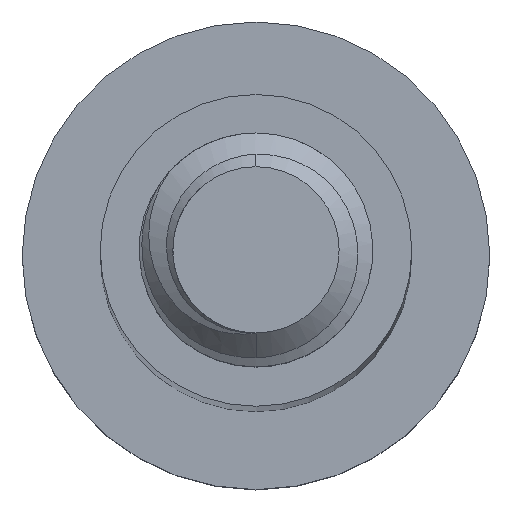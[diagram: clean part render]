
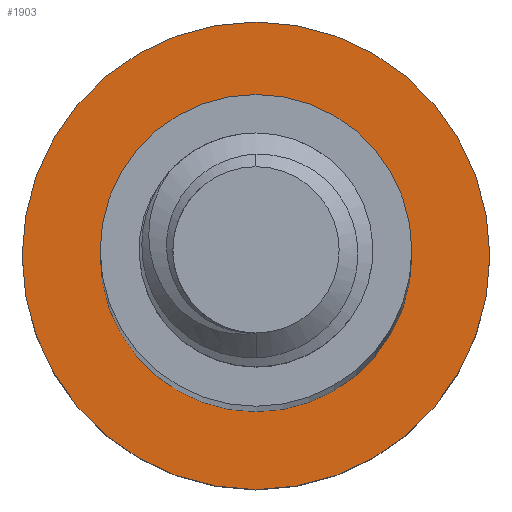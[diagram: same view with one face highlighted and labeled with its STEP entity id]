
A CAD part, top view. The second image highlights one B-rep face of the part: STEP entity #1903.
In plain terms, the highlighted planar face has unit normal (0, 0, 1).
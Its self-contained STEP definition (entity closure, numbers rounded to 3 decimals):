
#65 = FACE_BOUND ( 'NONE', #285, .T. ) ;
#78 = ORIENTED_EDGE ( 'NONE', *, *, #1864, .T. ) ;
#87 = VERTEX_POINT ( 'NONE', #1897 ) ;
#106 = DIRECTION ( 'NONE',  ( -1., 0., 0. ) ) ;
#153 = AXIS2_PLACEMENT_3D ( 'NONE', #634, #294, #1662 ) ;
#285 = EDGE_LOOP ( 'NONE', ( #78, #805 ) ) ;
#294 = DIRECTION ( 'NONE',  ( 0., 0., -1. ) ) ;
#337 = EDGE_CURVE ( 'NONE', #1007, #1483, #1997, .T. ) ;
#368 = EDGE_CURVE ( 'NONE', #1483, #1007, #2111, .T. ) ;
#369 = DIRECTION ( 'NONE',  ( -1., 0., 0. ) ) ;
#444 = CIRCLE ( 'NONE', #1713, 2. ) ;
#457 = DIRECTION ( 'NONE',  ( 0., 0., -1. ) ) ;
#546 = EDGE_LOOP ( 'NONE', ( #973, #1294 ) ) ;
#589 = CARTESIAN_POINT ( 'NONE',  ( 0., 0., -40. ) ) ;
#634 = CARTESIAN_POINT ( 'NONE',  ( 0., 0., -40. ) ) ;
#805 = ORIENTED_EDGE ( 'NONE', *, *, #850, .T. ) ;
#808 = DIRECTION ( 'NONE',  ( 0., 0., -1. ) ) ;
#850 = EDGE_CURVE ( 'NONE', #87, #1342, #444, .T. ) ;
#922 = DIRECTION ( 'NONE',  ( 0., 0., -1. ) ) ;
#955 = FACE_OUTER_BOUND ( 'NONE', #546, .T. ) ;
#969 = DIRECTION ( 'NONE',  ( -1., 0., 0. ) ) ;
#973 = ORIENTED_EDGE ( 'NONE', *, *, #337, .F. ) ;
#1007 = VERTEX_POINT ( 'NONE', #1452 ) ;
#1018 = AXIS2_PLACEMENT_3D ( 'NONE', #2203, #808, #969 ) ;
#1076 = CARTESIAN_POINT ( 'NONE',  ( 0., 0., -40. ) ) ;
#1290 = CARTESIAN_POINT ( 'NONE',  ( 0., 0., -40. ) ) ;
#1294 = ORIENTED_EDGE ( 'NONE', *, *, #368, .F. ) ;
#1310 = PLANE ( 'NONE',  #1932 ) ;
#1342 = VERTEX_POINT ( 'NONE', #1623 ) ;
#1434 = CIRCLE ( 'NONE', #1759, 2. ) ;
#1452 = CARTESIAN_POINT ( 'NONE',  ( 3., 0., -40. ) ) ;
#1474 = DIRECTION ( 'NONE',  ( -1., 0., 0. ) ) ;
#1483 = VERTEX_POINT ( 'NONE', #2012 ) ;
#1623 = CARTESIAN_POINT ( 'NONE',  ( -2., 0., -40. ) ) ;
#1662 = DIRECTION ( 'NONE',  ( -1., 0., 0. ) ) ;
#1713 = AXIS2_PLACEMENT_3D ( 'NONE', #1290, #1981, #106 ) ;
#1759 = AXIS2_PLACEMENT_3D ( 'NONE', #1076, #922, #369 ) ;
#1864 = EDGE_CURVE ( 'NONE', #1342, #87, #1434, .T. ) ;
#1897 = CARTESIAN_POINT ( 'NONE',  ( 2., 0., -40. ) ) ;
#1903 = ADVANCED_FACE ( 'NONE', ( #65, #955 ), #1310, .F. ) ;
#1932 = AXIS2_PLACEMENT_3D ( 'NONE', #589, #457, #1474 ) ;
#1981 = DIRECTION ( 'NONE',  ( 0., 0., -1. ) ) ;
#1997 = CIRCLE ( 'NONE', #1018, 3. ) ;
#2012 = CARTESIAN_POINT ( 'NONE',  ( -3., 0., -40. ) ) ;
#2111 = CIRCLE ( 'NONE', #153, 3. ) ;
#2203 = CARTESIAN_POINT ( 'NONE',  ( 0., 0., -40. ) ) ;
